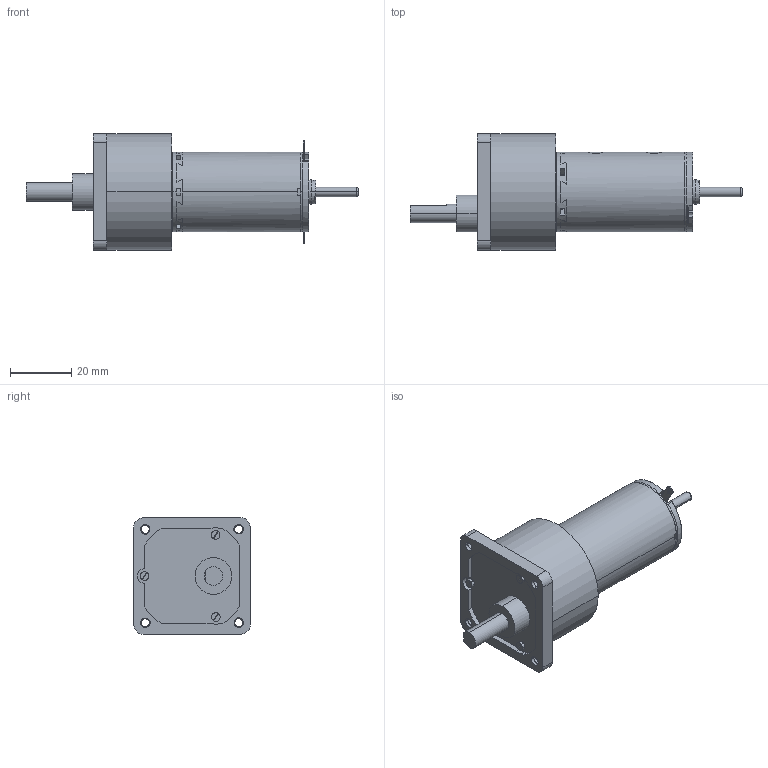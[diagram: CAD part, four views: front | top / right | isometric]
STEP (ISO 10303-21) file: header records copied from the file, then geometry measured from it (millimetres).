
FILE_DESCRIPTION (( 'STEP AP214' ), '1' );
FILE_NAME ('AMAX26CLLHP+GS38A 4étages.STEP', '2015-02-16T09:34:42', ( '' ), ( '' ), 'SwSTEP 2.0', 'SolidWorks 2014', '' );
FILE_SCHEMA (( 'AUTOMOTIVE_DESIGN' ));
Length unit declared in the file: millimetre
Products named in the file (4): Plaque d''appui GS38A; GS38A_GS38A 100:1  4 ‚tages; AMAX-26CLL; AMAX26CLLHP+GS38A 4étages
Assembly tree (3 placements, depth 2):
  AMAX26CLLHP+GS38A 4étages
    AMAX-26CLL
    GS38A_GS38A 100:1  4 ‚tages
    Plaque d''appui GS38A
Bounding box: 108.4 x 38.03 x 38.03 mm (x, y, z)
Volume: 52486.4 mm3; surface area: 15091.4 mm2
Topology: 4 solids, 4 shells, 559 faces, 1506 edges, 985 vertices
Faces by surface type: plane 294, cylinder 196, cone 62, torus 7
Entity records: 19434 total; most frequent: CARTESIAN_POINT 4252, ORIENTED_EDGE 3012, DIRECTION 2909, EDGE_CURVE 1506, AXIS2_PLACEMENT_3D 1060, VERTEX_POINT 985, VECTOR 789, LINE 789
